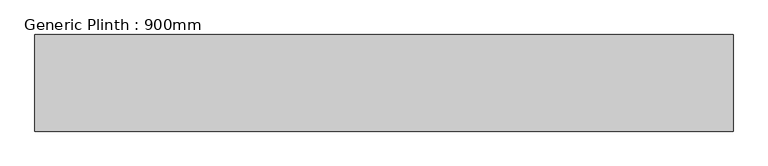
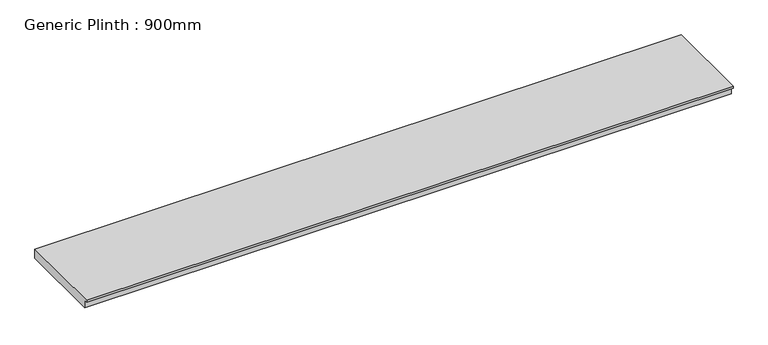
"""IFC4 building model written with IfcOpenShell, lengths in millimetres: furniture geometry, Generic Plinth : 900mm."""

from ifc_helpers import new_model, si_unit, frame, origin, place, context, project, spatial, polyline, outline, extrude, source, transform, mapped, element, save


def generic_plinth_900mm_54fedcf1(model_context):
    return source(origin(), model_context, "Body", "SweptSolid", [
        extrude(outline(polyline([(-900.0, 81.0), (-900.0, 100.0), (0.0, 100.0), (0.0, 0.0), (-865.0, 0.0), (-865.0, 81.0), (-900.0, 81.0)])), frame((-3231.5063974, 0.0, 0.0), z_axis=(1.0, 0.0, 0.0), x_axis=(0.0, 1.0, 0.0)), (0.0, 0.0, 1.0), 6500.4882047),
    ])


if __name__ == "__main__":
    model = new_model("IFC4")
    model_context = context("Model", 3, world=origin())
    ifc_project = project(units=[si_unit("LENGTHUNIT", "METRE", prefix="MILLI")], contexts=[model_context])
    site = spatial("IfcSite", under=ifc_project)
    building = spatial("IfcBuilding", under=site)
    placement = place(None, origin())
    generic_plinth_900mm_shape = generic_plinth_900mm_54fedcf1(model_context)
    element("IfcFurniture", 1, ObjectType="Generic Plinth : 900mm", at=placement, inside=building, context=model_context, shape_type="MappedRepresentation", body=[
        mapped(generic_plinth_900mm_shape, transform((0.0, 0.0, 0.0), x_axis=(1.0, 0.0, 0.0), y_axis=(0.0, 1.0, 0.0), z_axis=(0.0, 0.0, 1.0))),
    ])
    save(model, "model.ifc")
